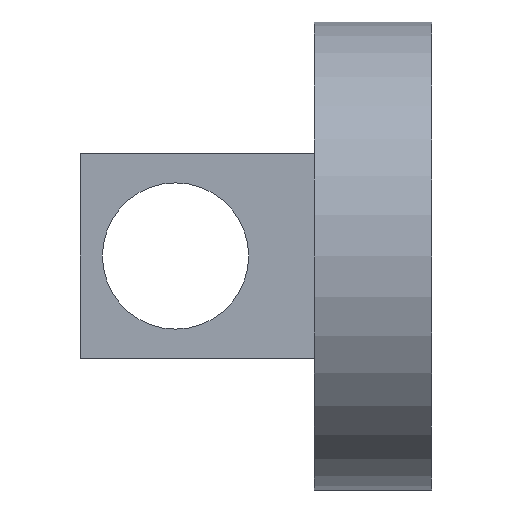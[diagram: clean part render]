
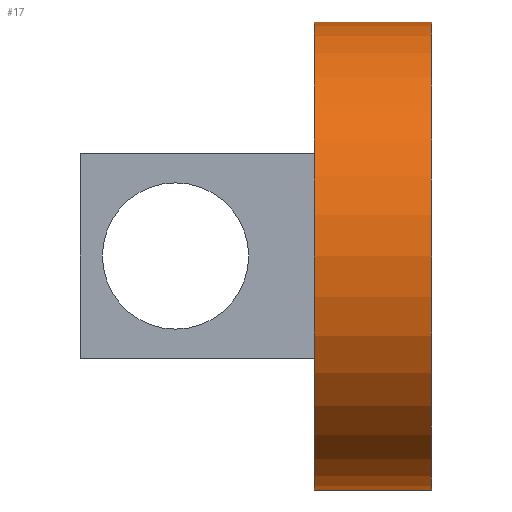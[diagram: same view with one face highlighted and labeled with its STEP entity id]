
A CAD part, front view. The second image highlights one B-rep face of the part: STEP entity #17.
In plain terms, the highlighted cylindrical face has radius 16 mm (diameter 32 mm), a full revolution.
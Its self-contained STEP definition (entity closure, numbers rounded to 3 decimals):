
#17 = ADVANCED_FACE('',(#18),#31,.T.);
#18 = FACE_BOUND('',#19,.T.);
#19 = EDGE_LOOP('',(#20,#54,#77,#104));
#20 = ORIENTED_EDGE('',*,*,#21,.F.);
#21 = EDGE_CURVE('',#22,#22,#24,.T.);
#22 = VERTEX_POINT('',#23);
#23 = CARTESIAN_POINT('',(425.,0.,16.));
#24 = SURFACE_CURVE('',#25,(#30,#42),.PCURVE_S1.);
#25 = CIRCLE('',#26,16.);
#26 = AXIS2_PLACEMENT_3D('',#27,#28,#29);
#27 = CARTESIAN_POINT('',(425.,0.,0.));
#28 = DIRECTION('',(1.,0.,0.));
#29 = DIRECTION('',(-0.,0.,1.));
#30 = PCURVE('',#31,#36);
#31 = CYLINDRICAL_SURFACE('',#32,16.);
#32 = AXIS2_PLACEMENT_3D('',#33,#34,#35);
#33 = CARTESIAN_POINT('',(417.,0.,0.));
#34 = DIRECTION('',(1.,0.,0.));
#35 = DIRECTION('',(-0.,0.,1.));
#36 = DEFINITIONAL_REPRESENTATION('',(#37),#41);
#37 = LINE('',#38,#39);
#38 = CARTESIAN_POINT('',(0.,8.));
#39 = VECTOR('',#40,1.);
#40 = DIRECTION('',(1.,0.));
#41 = ( GEOMETRIC_REPRESENTATION_CONTEXT(2) 
PARAMETRIC_REPRESENTATION_CONTEXT() REPRESENTATION_CONTEXT('2D SPACE',''
  ) );
#42 = PCURVE('',#43,#48);
#43 = PLANE('',#44);
#44 = AXIS2_PLACEMENT_3D('',#45,#46,#47);
#45 = CARTESIAN_POINT('',(425.,0.,0.));
#46 = DIRECTION('',(1.,0.,0.));
#47 = DIRECTION('',(-0.,0.,1.));
#48 = DEFINITIONAL_REPRESENTATION('',(#49),#53);
#49 = CIRCLE('',#50,16.);
#50 = AXIS2_PLACEMENT_2D('',#51,#52);
#51 = CARTESIAN_POINT('',(0.,0.));
#52 = DIRECTION('',(1.,0.));
#53 = ( GEOMETRIC_REPRESENTATION_CONTEXT(2) 
PARAMETRIC_REPRESENTATION_CONTEXT() REPRESENTATION_CONTEXT('2D SPACE',''
  ) );
#54 = ORIENTED_EDGE('',*,*,#55,.F.);
#55 = EDGE_CURVE('',#56,#22,#58,.T.);
#56 = VERTEX_POINT('',#57);
#57 = CARTESIAN_POINT('',(417.,0.,16.));
#58 = SEAM_CURVE('',#59,(#63,#70),.PCURVE_S1.);
#59 = LINE('',#60,#61);
#60 = CARTESIAN_POINT('',(417.,0.,16.));
#61 = VECTOR('',#62,1.);
#62 = DIRECTION('',(1.,0.,0.));
#63 = PCURVE('',#31,#64);
#64 = DEFINITIONAL_REPRESENTATION('',(#65),#69);
#65 = LINE('',#66,#67);
#66 = CARTESIAN_POINT('',(6.283,-0.));
#67 = VECTOR('',#68,1.);
#68 = DIRECTION('',(0.,1.));
#69 = ( GEOMETRIC_REPRESENTATION_CONTEXT(2) 
PARAMETRIC_REPRESENTATION_CONTEXT() REPRESENTATION_CONTEXT('2D SPACE',''
  ) );
#70 = PCURVE('',#31,#71);
#71 = DEFINITIONAL_REPRESENTATION('',(#72),#76);
#72 = LINE('',#73,#74);
#73 = CARTESIAN_POINT('',(0.,-0.));
#74 = VECTOR('',#75,1.);
#75 = DIRECTION('',(0.,1.));
#76 = ( GEOMETRIC_REPRESENTATION_CONTEXT(2) 
PARAMETRIC_REPRESENTATION_CONTEXT() REPRESENTATION_CONTEXT('2D SPACE',''
  ) );
#77 = ORIENTED_EDGE('',*,*,#78,.T.);
#78 = EDGE_CURVE('',#56,#56,#79,.T.);
#79 = SURFACE_CURVE('',#80,(#85,#92),.PCURVE_S1.);
#80 = CIRCLE('',#81,16.);
#81 = AXIS2_PLACEMENT_3D('',#82,#83,#84);
#82 = CARTESIAN_POINT('',(417.,0.,0.));
#83 = DIRECTION('',(1.,0.,0.));
#84 = DIRECTION('',(-0.,0.,1.));
#85 = PCURVE('',#31,#86);
#86 = DEFINITIONAL_REPRESENTATION('',(#87),#91);
#87 = LINE('',#88,#89);
#88 = CARTESIAN_POINT('',(0.,0.));
#89 = VECTOR('',#90,1.);
#90 = DIRECTION('',(1.,0.));
#91 = ( GEOMETRIC_REPRESENTATION_CONTEXT(2) 
PARAMETRIC_REPRESENTATION_CONTEXT() REPRESENTATION_CONTEXT('2D SPACE',''
  ) );
#92 = PCURVE('',#93,#98);
#93 = PLANE('',#94);
#94 = AXIS2_PLACEMENT_3D('',#95,#96,#97);
#95 = CARTESIAN_POINT('',(417.,0.,0.));
#96 = DIRECTION('',(1.,0.,0.));
#97 = DIRECTION('',(-0.,0.,1.));
#98 = DEFINITIONAL_REPRESENTATION('',(#99),#103);
#99 = CIRCLE('',#100,16.);
#100 = AXIS2_PLACEMENT_2D('',#101,#102);
#101 = CARTESIAN_POINT('',(0.,0.));
#102 = DIRECTION('',(1.,0.));
#103 = ( GEOMETRIC_REPRESENTATION_CONTEXT(2) 
PARAMETRIC_REPRESENTATION_CONTEXT() REPRESENTATION_CONTEXT('2D SPACE',''
  ) );
#104 = ORIENTED_EDGE('',*,*,#55,.T.);
